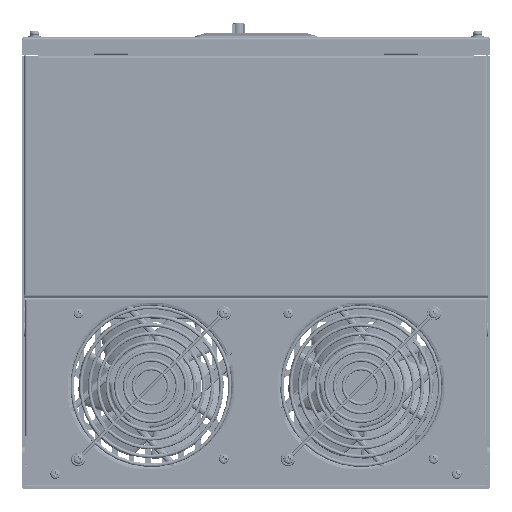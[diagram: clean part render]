
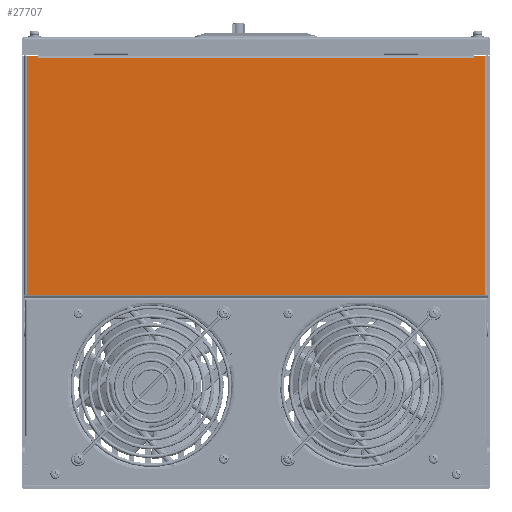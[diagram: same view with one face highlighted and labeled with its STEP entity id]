
A CAD part, left-side view. The second image highlights one B-rep face of the part: STEP entity #27707.
In plain terms, the highlighted planar face has unit normal (-1, 0, 0) as drawn and (0, 0, -1) by its records, which use the part's own axes.
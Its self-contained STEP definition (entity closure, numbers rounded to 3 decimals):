
#24330=DIRECTION('',(0.,1.,0.));
#24331=VECTOR('',#24330,1.5);
#24332=CARTESIAN_POINT('',(-157.6,171.5,-119.6));
#24333=LINE('',#24332,#24331);
#24334=DIRECTION('',(1.,0.,0.));
#24335=VECTOR('',#24334,8.);
#24336=CARTESIAN_POINT('',(-165.6,173.,-119.6));
#24337=LINE('',#24336,#24335);
#24338=DIRECTION('',(1.,0.,0.));
#24339=VECTOR('',#24338,8.);
#24340=CARTESIAN_POINT('',(157.6,173.,-119.6));
#24341=LINE('',#24340,#24339);
#24342=DIRECTION('',(0.,1.,0.));
#24343=VECTOR('',#24342,1.5);
#24344=CARTESIAN_POINT('',(157.6,171.5,-119.6));
#24345=LINE('',#24344,#24343);
#24355=DIRECTION('',(-1.,0.,0.));
#24356=VECTOR('',#24355,315.2);
#24357=CARTESIAN_POINT('',(157.6,171.5,-119.6));
#24358=LINE('',#24357,#24356);
#24641=DIRECTION('',(0.,-1.,0.));
#24642=VECTOR('',#24641,172.5);
#24643=CARTESIAN_POINT('',(-165.6,173.,-119.6));
#24644=LINE('',#24643,#24642);
#24795=DIRECTION('',(0.,1.,0.));
#24796=VECTOR('',#24795,172.5);
#24797=CARTESIAN_POINT('',(165.6,0.5,-119.6));
#24798=LINE('',#24797,#24796);
#24918=DIRECTION('',(-1.,0.,0.));
#24919=VECTOR('',#24918,331.2);
#24920=CARTESIAN_POINT('',(165.6,0.5,-119.6));
#24921=LINE('',#24920,#24919);
#26976=CARTESIAN_POINT('',(-157.6,171.5,-119.6));
#26977=CARTESIAN_POINT('',(-157.6,173.,-119.6));
#26978=VERTEX_POINT('',#26976);
#26979=VERTEX_POINT('',#26977);
#26984=CARTESIAN_POINT('',(157.6,171.5,-119.6));
#26985=CARTESIAN_POINT('',(157.6,173.,-119.6));
#26986=VERTEX_POINT('',#26984);
#26987=VERTEX_POINT('',#26985);
#27042=CARTESIAN_POINT('',(165.6,0.5,-119.6));
#27043=VERTEX_POINT('',#27042);
#27052=CARTESIAN_POINT('',(165.6,173.,-119.6));
#27053=VERTEX_POINT('',#27052);
#27066=CARTESIAN_POINT('',(-165.6,0.5,-119.6));
#27067=VERTEX_POINT('',#27066);
#27076=CARTESIAN_POINT('',(-165.6,173.,-119.6));
#27077=VERTEX_POINT('',#27076);
#27684=CARTESIAN_POINT('',(-167.6,-1.5,-119.6));
#27685=DIRECTION('',(0.,0.,-1.));
#27686=DIRECTION('',(-1.,0.,0.));
#27687=AXIS2_PLACEMENT_3D('',#27684,#27685,#27686);
#27688=PLANE('',#27687);
#27690=ORIENTED_EDGE('',*,*,#27689,.T.);
#27692=ORIENTED_EDGE('',*,*,#27691,.T.);
#27694=ORIENTED_EDGE('',*,*,#27693,.F.);
#27696=ORIENTED_EDGE('',*,*,#27695,.T.);
#27698=ORIENTED_EDGE('',*,*,#27697,.F.);
#27700=ORIENTED_EDGE('',*,*,#27699,.T.);
#27702=ORIENTED_EDGE('',*,*,#27701,.F.);
#27704=ORIENTED_EDGE('',*,*,#27703,.F.);
#27705=EDGE_LOOP('',(#27690,#27692,#27694,#27696,#27698,#27700,#27702,#27704));
#27706=FACE_OUTER_BOUND('',#27705,.F.);
#27689=EDGE_CURVE('',#26986,#26978,#24358,.T.);
#27691=EDGE_CURVE('',#26978,#26979,#24333,.T.);
#27693=EDGE_CURVE('',#27077,#26979,#24337,.T.);
#27695=EDGE_CURVE('',#27077,#27067,#24644,.T.);
#27697=EDGE_CURVE('',#27043,#27067,#24921,.T.);
#27699=EDGE_CURVE('',#27043,#27053,#24798,.T.);
#27701=EDGE_CURVE('',#26987,#27053,#24341,.T.);
#27703=EDGE_CURVE('',#26986,#26987,#24345,.T.);
#27707=ADVANCED_FACE('',(#27706),#27688,.T.);
